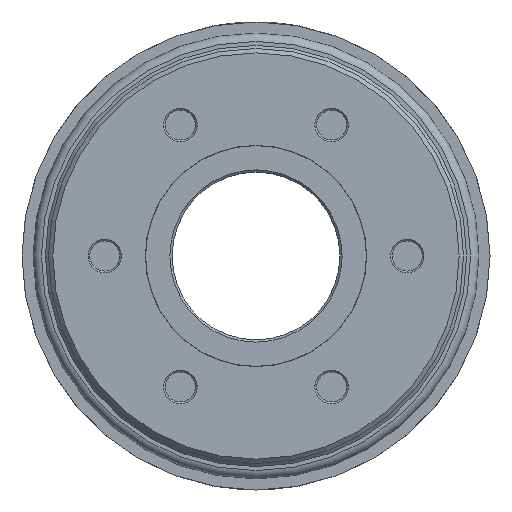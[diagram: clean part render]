
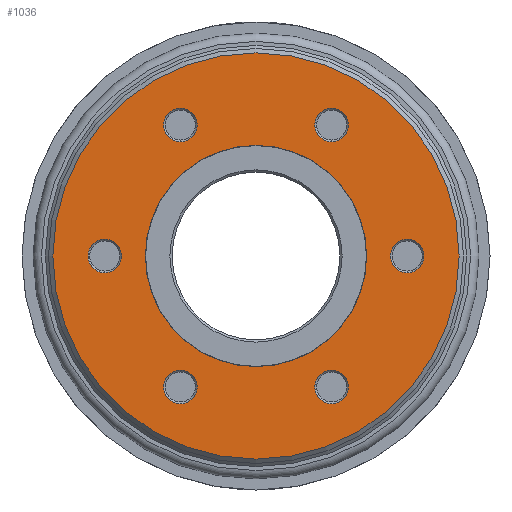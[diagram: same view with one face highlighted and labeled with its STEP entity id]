
A CAD part, left-side view. The second image highlights one B-rep face of the part: STEP entity #1036.
In plain terms, the highlighted planar face has unit normal (-1, 0, 0).
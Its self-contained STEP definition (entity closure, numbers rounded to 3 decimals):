
#1036 = ADVANCED_FACE( '', ( #2534, #2535, #2536, #2537, #2538, #2539, #2540, #2541 ), #2542, .T. );
#2534 = FACE_OUTER_BOUND( '', #4499, .T. );
#2535 = FACE_BOUND( '', #4500, .T. );
#2536 = FACE_BOUND( '', #4501, .T. );
#2537 = FACE_BOUND( '', #4502, .T. );
#2538 = FACE_BOUND( '', #4503, .T. );
#2539 = FACE_BOUND( '', #4504, .T. );
#2540 = FACE_BOUND( '', #4505, .T. );
#2541 = FACE_BOUND( '', #4506, .T. );
#2542 = PLANE( '', #4507 );
#4499 = EDGE_LOOP( '', ( #7365 ) );
#4500 = EDGE_LOOP( '', ( #7366 ) );
#4501 = EDGE_LOOP( '', ( #7367 ) );
#4502 = EDGE_LOOP( '', ( #7368 ) );
#4503 = EDGE_LOOP( '', ( #7369 ) );
#4504 = EDGE_LOOP( '', ( #7370 ) );
#4505 = EDGE_LOOP( '', ( #7371 ) );
#4506 = EDGE_LOOP( '', ( #7372 ) );
#4507 = AXIS2_PLACEMENT_3D( '', #7373, #7374, #7375 );
#7365 = ORIENTED_EDGE( '', *, *, #10502, .T. );
#7366 = ORIENTED_EDGE( '', *, *, #10503, .T. );
#7367 = ORIENTED_EDGE( '', *, *, #10290, .T. );
#7368 = ORIENTED_EDGE( '', *, *, #10504, .T. );
#7369 = ORIENTED_EDGE( '', *, *, #10505, .T. );
#7370 = ORIENTED_EDGE( '', *, *, #10246, .T. );
#7371 = ORIENTED_EDGE( '', *, *, #9937, .T. );
#7372 = ORIENTED_EDGE( '', *, *, #9784, .T. );
#7373 = CARTESIAN_POINT( '', ( -62.001, -23.5, -40.703 ) );
#7374 = DIRECTION( '', ( -1., 0., 0. ) );
#7375 = DIRECTION( '', ( 0., 0.866, -0.5 ) );
#9784 = EDGE_CURVE( '', #11395, #11395, #11396, .F. );
#9937 = EDGE_CURVE( '', #11651, #11651, #11652, .T. );
#10246 = EDGE_CURVE( '', #12145, #12145, #12146, .T. );
#10290 = EDGE_CURVE( '', #12212, #12212, #12213, .T. );
#10502 = EDGE_CURVE( '', #12520, #12520, #12521, .T. );
#10503 = EDGE_CURVE( '', #12522, #12522, #12523, .T. );
#10504 = EDGE_CURVE( '', #12524, #12524, #12525, .T. );
#10505 = EDGE_CURVE( '', #12526, #12526, #12527, .T. );
#11395 = VERTEX_POINT( '', #13599 );
#11396 = CIRCLE( '', #13600, 25.05 );
#11651 = VERTEX_POINT( '', #13923 );
#11652 = CIRCLE( '', #13924, 3.8 );
#12145 = VERTEX_POINT( '', #14520 );
#12146 = CIRCLE( '', #14521, 3.8 );
#12212 = VERTEX_POINT( '', #14610 );
#12213 = CIRCLE( '', #14611, 3.8 );
#12520 = VERTEX_POINT( '', #14989 );
#12521 = CIRCLE( '', #14990, 46. );
#12522 = VERTEX_POINT( '', #14991 );
#12523 = CIRCLE( '', #14992, 3.8 );
#12524 = VERTEX_POINT( '', #14993 );
#12525 = CIRCLE( '', #14994, 3.8 );
#12526 = VERTEX_POINT( '', #14995 );
#12527 = CIRCLE( '', #14996, 3.8 );
#13599 = CARTESIAN_POINT( '', ( -62.001, 0., 25.05 ) );
#13600 = AXIS2_PLACEMENT_3D( '', #16135, #16136, #16137 );
#13923 = CARTESIAN_POINT( '', ( -62.001, -15.225, -26.37 ) );
#13924 = AXIS2_PLACEMENT_3D( '', #16351, #16352, #16353 );
#14520 = CARTESIAN_POINT( '', ( -62.001, 15.225, -26.37 ) );
#14521 = AXIS2_PLACEMENT_3D( '', #16833, #16834, #16835 );
#14610 = CARTESIAN_POINT( '', ( -62.001, -15.225, 26.37 ) );
#14611 = AXIS2_PLACEMENT_3D( '', #16880, #16881, #16882 );
#14989 = CARTESIAN_POINT( '', ( -62.001, 23., 39.837 ) );
#14990 = AXIS2_PLACEMENT_3D( '', #17176, #17177, #17178 );
#14991 = CARTESIAN_POINT( '', ( -62.001, -30.45, 0. ) );
#14992 = AXIS2_PLACEMENT_3D( '', #17179, #17180, #17181 );
#14993 = CARTESIAN_POINT( '', ( -62.001, 15.225, 26.37 ) );
#14994 = AXIS2_PLACEMENT_3D( '', #17182, #17183, #17184 );
#14995 = CARTESIAN_POINT( '', ( -62.001, 30.45, 0. ) );
#14996 = AXIS2_PLACEMENT_3D( '', #17185, #17186, #17187 );
#16135 = CARTESIAN_POINT( '', ( -62.001, 0., 0. ) );
#16136 = DIRECTION( '', ( -1., 0., 0. ) );
#16137 = DIRECTION( '', ( 0., 0., 1. ) );
#16351 = CARTESIAN_POINT( '', ( -62.001, -17.125, -29.661 ) );
#16352 = DIRECTION( '', ( 1., 0., 0. ) );
#16353 = DIRECTION( '', ( 0., 0.5, 0.866 ) );
#16833 = CARTESIAN_POINT( '', ( -62.001, 17.125, -29.661 ) );
#16834 = DIRECTION( '', ( 1., 0., 0. ) );
#16835 = DIRECTION( '', ( 0., -0.5, 0.866 ) );
#16880 = CARTESIAN_POINT( '', ( -62.001, -17.125, 29.661 ) );
#16881 = DIRECTION( '', ( 1., 0., 0. ) );
#16882 = DIRECTION( '', ( 0., 0.5, -0.866 ) );
#17176 = CARTESIAN_POINT( '', ( -62.001, 0., 0. ) );
#17177 = DIRECTION( '', ( -1., 0., 0. ) );
#17178 = DIRECTION( '', ( 0., 0.5, 0.866 ) );
#17179 = CARTESIAN_POINT( '', ( -62.001, -34.25, 0. ) );
#17180 = DIRECTION( '', ( 1., 0., 0. ) );
#17181 = DIRECTION( '', ( 0., 1., 0. ) );
#17182 = CARTESIAN_POINT( '', ( -62.001, 17.125, 29.661 ) );
#17183 = DIRECTION( '', ( 1., 0., 0. ) );
#17184 = DIRECTION( '', ( 0., -0.5, -0.866 ) );
#17185 = CARTESIAN_POINT( '', ( -62.001, 34.25, 0. ) );
#17186 = DIRECTION( '', ( 1., 0., 0. ) );
#17187 = DIRECTION( '', ( 0., -1., 0. ) );
